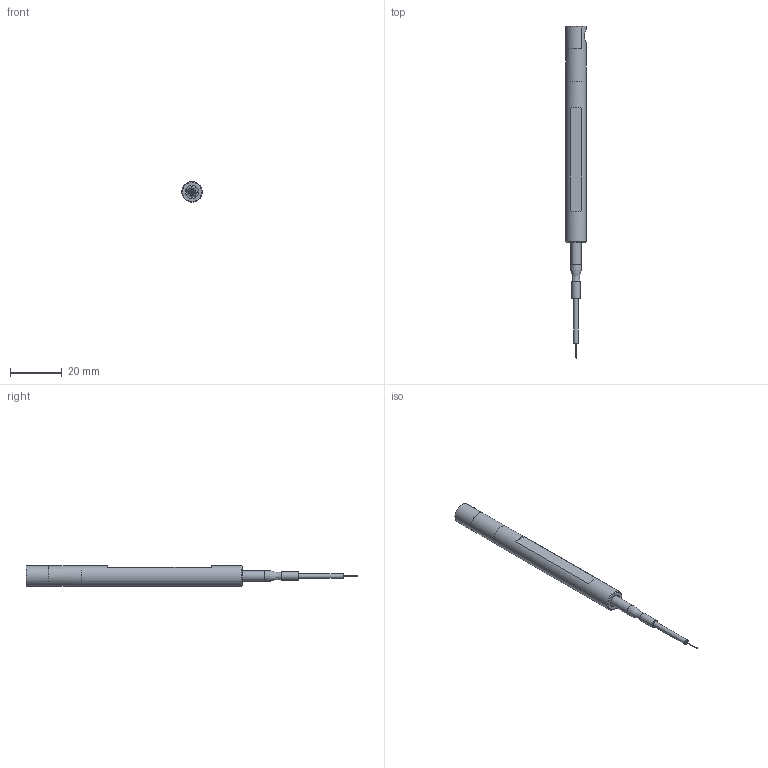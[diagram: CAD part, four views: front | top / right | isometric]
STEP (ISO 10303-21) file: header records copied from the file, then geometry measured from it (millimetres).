
FILE_DESCRIPTION(/* description */ (''),/* implementation_level */ '2;1');
FILE_NAME(/* name */ 'K:\ME\CAD Daten\IFS2403\90\IFS2403_90-4.stp',/* time_stamp */ '2017-10-27T12:02:05+02:00',/* author */ ('sven'),/* organization */ (''),/* preprocessor_version */ 'ST-DEVELOPER v16.13',/* originating_system */ 'Autodesk Inventor 2018',/* authorisation */ '');
FILE_SCHEMA (('CONFIG_CONTROL_DESIGN'));
Length unit declared in the file: millimetre
Products named in the file (10): IFS2403_90-4; 10.00043_Außenrohr_MB4GA12; 20.00018_Prisma5mm; 30.00002_Schrumpfschlauch; 40.00006_StdFaser; ferrule; faser; Tubing; 10.00041_Prismenhalter_MB4GA12; 10.00042_Kappe_MB4GA12
Assembly tree (9 placements, depth 3):
  IFS2403_90-4
    10.00043_Außenrohr_MB4GA12
    20.00018_Prisma5mm
    30.00002_Schrumpfschlauch
    40.00006_StdFaser
      ferrule
      faser
      Tubing
    10.00041_Prismenhalter_MB4GA12
    10.00042_Kappe_MB4GA12
Bounding box: 8 x 128.39 x 8 mm (x, y, z)
Volume: 2508.6 mm3; surface area: 5099.4 mm2
Topology: 8 solids, 8 shells, 61 faces, 122 edges, 79 vertices
Faces by surface type: plane 39, cylinder 19, bspline 2, cone 1
Full cylindrical faces by diameter (mm): 0.25 x1, 1.39 x1, 1.712 x1, 1.8 x1, 1.9 x1, 2.5 x1, 3.14 x1, 4 x1, 4.9 x1, 5 x1, 5.5 x1, 7.2 x2, 7.9 x2, 8 x1
Entity records: 2128 total; most frequent: CARTESIAN_POINT 529, DIRECTION 300, ORIENTED_EDGE 202, AXIS2_PLACEMENT_3D 125, EDGE_CURVE 101, EDGE_LOOP 90, VERTEX_POINT 75, FACE_OUTER_BOUND 61
